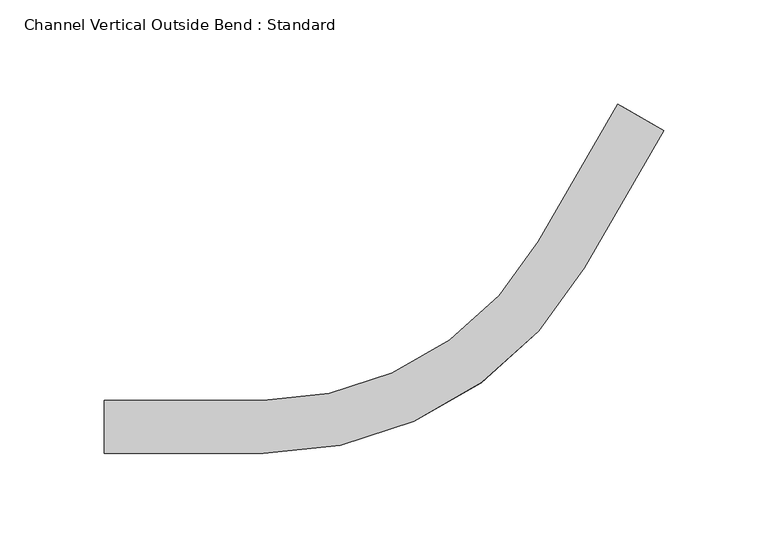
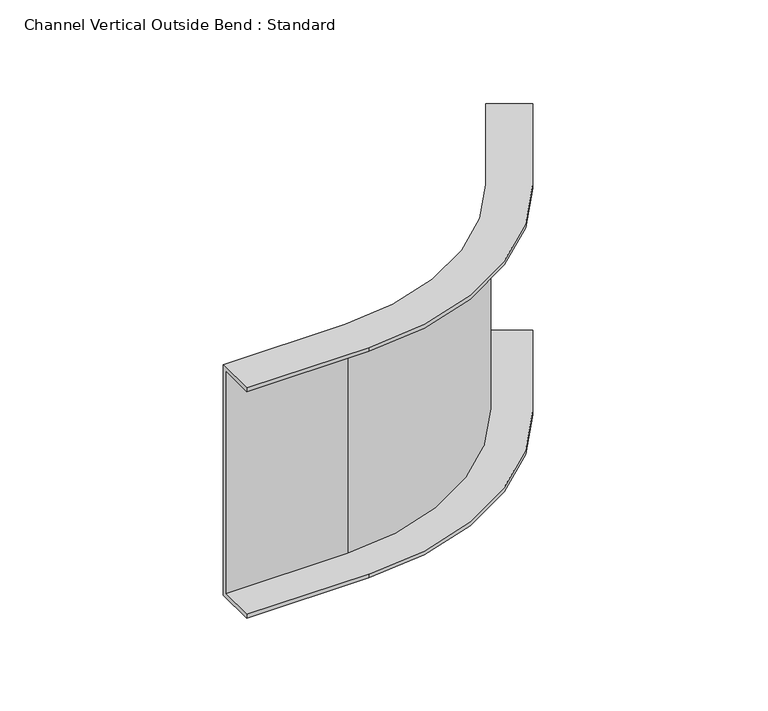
"""IFC4 building model written with IfcOpenShell, lengths in millimetres: cable carrier fitting geometry, Channel Vertical Outside Bend : Standard."""

from ifc_helpers import new_model, si_unit, frame, origin, place, context, project, spatial, polyline, circle_curve, source, transform, mapped, element, save
from ifc_brep_helpers import plane_surface, cylinder_surface, revolved_surface, advanced_brep


def channel_vertical_outside_bend_standard_cf456a38(model_context):
    return source(origin(), model_context, "Body", "AdvancedBrep", [
        advanced_brep(
        [(-171.5205294, -12.7, 76.2), (-171.5205294, 12.7, 76.2), (-171.5205294, 12.7, -76.2), (-171.5205294, -12.7, -76.2), (-171.5205294, -12.7, -73.66), (-171.5205294, 10.16, -73.66), (-171.5205294, 10.16, 73.66), (-171.5205294, -12.7, 73.66), (96.7587873, 142.1911358, 76.2), (96.7587873, 142.1911358, 73.66), (76.9614466, 153.6211358, 73.66), (76.9614466, 153.6211358, -73.66), (96.7587873, 142.1911358, -73.66), (96.7587873, 142.1911358, -76.2), (74.7617421, 154.8911358, -76.2), (74.7617421, 154.8911358, 76.2), (-95.3205294, -12.7, 76.2), (58.6587873, 76.2, 76.2), (36.6617421, 88.9, 76.2), (-95.3205294, 12.7, 76.2), (-95.3205294, 12.7, -76.2), (36.6617421, 88.9, -76.2), (58.6587873, 76.2, -76.2), (-95.3205294, -12.7, -76.2), (-95.3205294, -12.7, -73.66), (58.6587873, 76.2, -73.66), (38.8614466, 87.63, -73.66), (-95.3205294, 10.16, -73.66), (-95.3205294, 10.16, 73.66), (38.8614466, 87.63, 73.66), (58.6587873, 76.2, 73.66), (-95.3205294, -12.7, 73.66)],
        [
            (0, 1),
            (1, 2),
            (2, 3),
            (3, 4),
            (4, 5),
            (5, 6),
            (6, 7),
            (7, 0),
            (8, 9),
            (9, 10),
            (10, 11),
            (11, 12),
            (12, 13),
            (13, 14),
            (14, 15),
            (15, 8),
            (0, 16),
            (16, 17, circle_curve(frame((-95.3205294, 165.1, 76.2), z_axis=(0.0, 0.0, 1.0), x_axis=(0.0, -1.0, 0.0)), 177.8)),
            (17, 8),
            (15, 18),
            (18, 19, circle_curve(frame((-95.3205294, 165.1, 76.2), z_axis=(0.0, 0.0, -1.0), x_axis=(0.0, -1.0, 0.0)), 152.4)),
            (19, 1),
            (19, 20),
            (20, 2),
            (20, 21, circle_curve(frame((-95.3205294, 165.1, -76.2), z_axis=(0.0, 0.0, 1.0), x_axis=(0.0, -1.0, 0.0)), 152.4)),
            (21, 14),
            (13, 22),
            (22, 23, circle_curve(frame((-95.3205294, 165.1, -76.2), z_axis=(0.0, 0.0, -1.0), x_axis=(0.0, -1.0, 0.0)), 177.8)),
            (23, 3),
            (23, 24),
            (24, 4),
            (24, 25, circle_curve(frame((-95.3205294, 165.1, -73.66), z_axis=(0.0, 0.0, 1.0), x_axis=(0.0, -1.0, 0.0)), 177.8)),
            (25, 12),
            (11, 26),
            (26, 27, circle_curve(frame((-95.3205294, 165.1, -73.66), z_axis=(0.0, 0.0, -1.0), x_axis=(0.0, -1.0, 0.0)), 154.94)),
            (27, 5),
            (27, 28),
            (28, 6),
            (28, 29, circle_curve(frame((-95.3205294, 165.1, 73.66), z_axis=(0.0, 0.0, 1.0), x_axis=(0.0, -1.0, 0.0)), 154.94)),
            (29, 10),
            (9, 30),
            (30, 31, circle_curve(frame((-95.3205294, 165.1, 73.66), z_axis=(0.0, 0.0, -1.0), x_axis=(0.0, -1.0, 0.0)), 177.8)),
            (31, 7),
            (31, 16),
            (18, 21),
            (22, 25),
            (26, 29),
            (30, 17),
        ],
        [
            plane_surface(frame((-171.5205294, 0.0, 0.0), z_axis=(-1.0, 0.0, 0.0), x_axis=(0.0, 0.0, 1.0))),
            plane_surface(frame((85.7602647, 148.5411358, 0.0), z_axis=(0.49999999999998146, 0.8660254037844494, 0.0), x_axis=(0.0, 0.0, 1.0))),
            plane_surface(frame((-171.5205294, -12.7, 76.2), z_axis=(0.0, 0.0, 1.0), x_axis=(1.0, 0.0, 0.0))),
            plane_surface(frame((-171.5205294, 12.7, 76.2), z_axis=(0.0, 1.0, 0.0), x_axis=(1.0, 0.0, 0.0))),
            plane_surface(frame((-171.5205294, 12.7, -76.2), z_axis=(0.0, 0.0, -1.0), x_axis=(1.0, 0.0, 0.0))),
            plane_surface(frame((-171.5205294, -12.7, -76.2), z_axis=(0.0, -1.0, 0.0), x_axis=(1.0, 0.0, 0.0))),
            plane_surface(frame((-171.5205294, -12.7, -73.66), z_axis=(0.0, 0.0, 1.0), x_axis=(1.0, 0.0, 0.0))),
            plane_surface(frame((-171.5205294, 10.16, -73.66), z_axis=(0.0, -1.0, 0.0), x_axis=(1.0, 0.0, 0.0))),
            plane_surface(frame((-171.5205294, 10.16, 73.66), z_axis=(0.0, 0.0, -1.0), x_axis=(1.0, 0.0, 0.0))),
            plane_surface(frame((-171.5205294, -12.7, 73.66), z_axis=(0.0, -1.0, 0.0), x_axis=(1.0, 0.0, 0.0))),
            revolved_surface(polyline([(-95.3205294, 12.699999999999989, 76.2), (-95.3205294, 12.699999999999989, -76.2)]), (-95.3205294, 165.1, 0.0), (0.0, 0.0, 1.0)),
            cylinder_surface(frame((-95.3205294, 165.1, 0.0), z_axis=(0.0, 0.0, 1.0), x_axis=(0.0, -1.0, 0.0)), 177.8),
            cylinder_surface(frame((-95.3205294, 165.1, 0.0), z_axis=(0.0, 0.0, 1.0), x_axis=(0.0, -1.0, 0.0)), 154.94),
            plane_surface(frame((36.6617421, 88.9, 76.2), z_axis=(-0.8660254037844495, 0.49999999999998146, 0.0), x_axis=(0.49999999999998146, 0.8660254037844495, 0.0))),
            plane_surface(frame((58.6587873, 76.2, -76.2), z_axis=(0.8660254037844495, -0.49999999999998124, 0.0), x_axis=(0.49999999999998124, 0.8660254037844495, 0.0))),
            plane_surface(frame((38.8614466, 87.63, -73.66), z_axis=(0.8660254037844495, -0.49999999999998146, 0.0), x_axis=(0.49999999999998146, 0.8660254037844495, 0.0))),
            plane_surface(frame((58.6587873, 76.2, 73.66), z_axis=(0.8660254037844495, -0.49999999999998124, 0.0), x_axis=(0.49999999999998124, 0.8660254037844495, 0.0))),
        ],
        [
            (0, [[1, 2, 3, 4, 5, 6, 7, 8]]),
            (1, [[9, 10, 11, 12, 13, 14, 15, 16]]),
            (2, [[-1, 17, 18, 19, -16, 20, 21, 22]]),
            (3, [[-2, -22, 23, 24]]),
            (4, [[-3, -24, 25, 26, -14, 27, 28, 29]]),
            (5, [[-4, -29, 30, 31]]),
            (6, [[-5, -31, 32, 33, -12, 34, 35, 36]]),
            (7, [[-6, -36, 37, 38]]),
            (8, [[-7, -38, 39, 40, -10, 41, 42, 43]]),
            (9, [[-8, -43, 44, -17]]),
            (10, [[-25, -23, -21, 45]]),
            (11, [[-32, -30, -28, 46]]),
            (12, [[-39, -37, -35, 47]]),
            (11, [[-18, -44, -42, 48]]),
            (13, [[-45, -20, -15, -26]]),
            (14, [[-46, -27, -13, -33]]),
            (15, [[-47, -34, -11, -40]]),
            (16, [[-48, -41, -9, -19]]),
        ],
    ),
    ])


if __name__ == "__main__":
    model = new_model("IFC4")
    model_context = context("Model", 3, world=origin())
    ifc_project = project(units=[si_unit("LENGTHUNIT", "METRE", prefix="MILLI")], contexts=[model_context])
    site = spatial("IfcSite", under=ifc_project)
    building = spatial("IfcBuilding", under=site)
    placement = place(None, origin())
    channel_vertical_outside_bend_standard_shape = channel_vertical_outside_bend_standard_cf456a38(model_context)
    element("IfcCableCarrierFitting", 1, ObjectType="Channel Vertical Outside Bend : Standard", at=placement, inside=building, context=model_context, shape_type="MappedRepresentation", body=[
        mapped(channel_vertical_outside_bend_standard_shape, transform((0.0, 0.0, 0.0), x_axis=(1.0, 0.0, 0.0), y_axis=(0.0, 1.0, 0.0), z_axis=(0.0, 0.0, 1.0))),
    ])
    save(model, "model.ifc")
